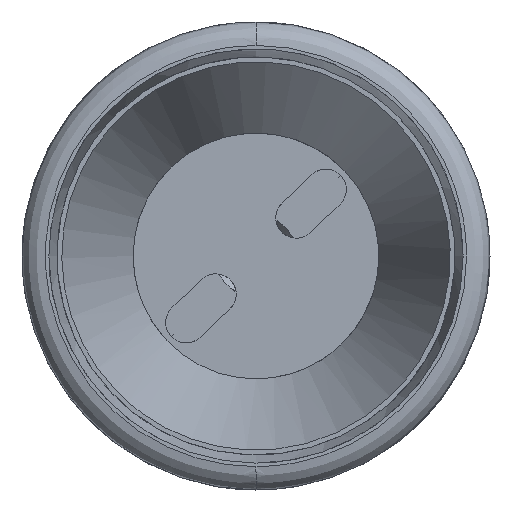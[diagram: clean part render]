
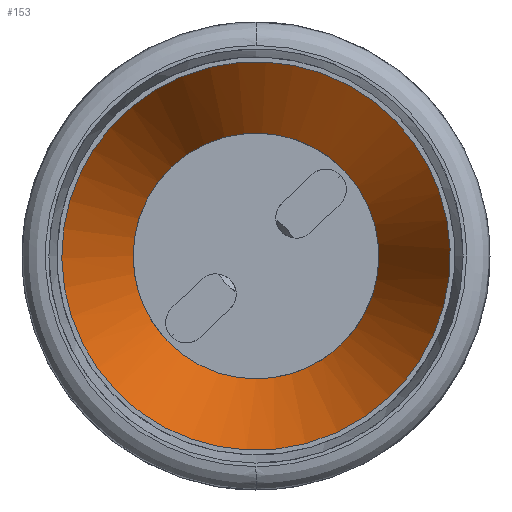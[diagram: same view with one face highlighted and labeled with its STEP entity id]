
A CAD part, front view. The second image highlights one B-rep face of the part: STEP entity #153.
In plain terms, the highlighted free-form (B-spline) face has degree [1, 2] with [2, 9] control points.
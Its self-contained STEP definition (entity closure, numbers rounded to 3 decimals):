
#43=B_SPLINE_CURVE_WITH_KNOTS('',1,(#2646,#2647),.UNSPECIFIED.,.F.,.F.,
(2,2),(26.287,41.558),.UNSPECIFIED.);
#153=ADVANCED_FACE('',(#226),#1395,.T.);
#226=FACE_OUTER_BOUND('',#303,.T.);
#303=EDGE_LOOP('',(#473,#474,#475,#476,#477,#478,#479,#480));
#473=ORIENTED_EDGE('',*,*,#879,.F.);
#474=ORIENTED_EDGE('',*,*,#878,.F.);
#475=ORIENTED_EDGE('',*,*,#885,.T.);
#476=ORIENTED_EDGE('',*,*,#884,.T.);
#477=ORIENTED_EDGE('',*,*,#877,.F.);
#478=ORIENTED_EDGE('',*,*,#879,.T.);
#479=ORIENTED_EDGE('',*,*,#880,.F.);
#480=ORIENTED_EDGE('',*,*,#876,.F.);
#876=EDGE_CURVE('',#1260,#1270,#1087,.T.);
#877=EDGE_CURVE('',#1261,#1262,#1088,.T.);
#878=EDGE_CURVE('',#1263,#1261,#1089,.T.);
#879=EDGE_CURVE('',#1261,#1260,#43,.T.);
#880=EDGE_CURVE('',#1270,#1260,#1090,.T.);
#884=EDGE_CURVE('',#1267,#1262,#1094,.T.);
#885=EDGE_CURVE('',#1263,#1267,#1095,.T.);
#1087=(
BOUNDED_CURVE()
B_SPLINE_CURVE(2,(#2631,#2632,#2633,#2634,#2635,#2636,#2637,#2638,#2639),
 .UNSPECIFIED.,.F.,.F.)
B_SPLINE_CURVE_WITH_KNOTS((3,2,2,2,3),(-104.301,-84.744,
-65.188,-45.632,-26.075),.UNSPECIFIED.)
CURVE()
GEOMETRIC_REPRESENTATION_ITEM()
RATIONAL_B_SPLINE_CURVE((1.,0.831,1.,0.831,1.,0.831,
1.,0.831,1.))
REPRESENTATION_ITEM('')
);
#1088=(
BOUNDED_CURVE()
B_SPLINE_CURVE(2,(#2640,#2641,#2642),.UNSPECIFIED.,.F.,.F.)
B_SPLINE_CURVE_WITH_KNOTS((3,3),(-16.493,0.),.UNSPECIFIED.)
CURVE()
GEOMETRIC_REPRESENTATION_ITEM()
RATIONAL_B_SPLINE_CURVE((1.,0.707,1.))
REPRESENTATION_ITEM('')
);
#1089=(
BOUNDED_CURVE()
B_SPLINE_CURVE(2,(#2643,#2644,#2645),.UNSPECIFIED.,.F.,.F.)
B_SPLINE_CURVE_WITH_KNOTS((3,3),(-32.987,-16.493),
 .UNSPECIFIED.)
CURVE()
GEOMETRIC_REPRESENTATION_ITEM()
RATIONAL_B_SPLINE_CURVE((1.,0.707,1.))
REPRESENTATION_ITEM('')
);
#1090=(
BOUNDED_CURVE()
B_SPLINE_CURVE(2,(#2648,#2649,#2650),.UNSPECIFIED.,.F.,.F.)
B_SPLINE_CURVE_WITH_KNOTS((3,3),(-26.075,0.),.UNSPECIFIED.)
CURVE()
GEOMETRIC_REPRESENTATION_ITEM()
RATIONAL_B_SPLINE_CURVE((1.,0.707,1.))
REPRESENTATION_ITEM('')
);
#1094=(
BOUNDED_CURVE()
B_SPLINE_CURVE(2,(#2662,#2663,#2664),.UNSPECIFIED.,.F.,.F.)
B_SPLINE_CURVE_WITH_KNOTS((3,3),(-16.493,0.),.UNSPECIFIED.)
CURVE()
GEOMETRIC_REPRESENTATION_ITEM()
RATIONAL_B_SPLINE_CURVE((1.,0.707,1.))
REPRESENTATION_ITEM('')
);
#1095=(
BOUNDED_CURVE()
B_SPLINE_CURVE(2,(#2665,#2666,#2667),.UNSPECIFIED.,.F.,.F.)
B_SPLINE_CURVE_WITH_KNOTS((3,3),(-32.987,-16.493),
 .UNSPECIFIED.)
CURVE()
GEOMETRIC_REPRESENTATION_ITEM()
RATIONAL_B_SPLINE_CURVE((1.,0.707,1.))
REPRESENTATION_ITEM('')
);
#1260=VERTEX_POINT('',#2576);
#1261=VERTEX_POINT('',#2577);
#1262=VERTEX_POINT('',#2578);
#1263=VERTEX_POINT('',#2579);
#1267=VERTEX_POINT('',#2583);
#1270=VERTEX_POINT('',#2586);
#1395=(
BOUNDED_SURFACE()
B_SPLINE_SURFACE(1,2,((#2254,#2255,#2256,#2257,#2258,#2259,#2260,#2261,
#2262),(#2263,#2264,#2265,#2266,#2267,#2268,#2269,#2270,#2271)),
 .UNSPECIFIED.,.F.,.F.,.F.)
B_SPLINE_SURFACE_WITH_KNOTS((2,2),(3,2,2,2,3),(0.,45.844),(0.,
1.571,3.142,4.712,6.283),
 .UNSPECIFIED.)
GEOMETRIC_REPRESENTATION_ITEM()
RATIONAL_B_SPLINE_SURFACE(((1.,0.707,1.,0.707,1.,
0.707,1.,0.707,1.),(1.,0.707,1.,0.707,
1.,0.707,1.,0.707,1.)))
REPRESENTATION_ITEM('')
SURFACE()
);
#2254=CARTESIAN_POINT('',(0.,15.448,0.));
#2255=CARTESIAN_POINT('',(0.,15.448,0.));
#2256=CARTESIAN_POINT('',(0.,15.448,0.));
#2257=CARTESIAN_POINT('',(0.,15.448,0.));
#2258=CARTESIAN_POINT('',(0.,15.448,0.));
#2259=CARTESIAN_POINT('',(0.,15.448,0.));
#2260=CARTESIAN_POINT('',(0.,15.448,0.));
#2261=CARTESIAN_POINT('',(0.,15.448,0.));
#2262=CARTESIAN_POINT('',(0.,15.448,0.));
#2263=CARTESIAN_POINT('',(-13.268,-26.58,-12.622));
#2264=CARTESIAN_POINT('',(-0.646,-26.58,-25.889));
#2265=CARTESIAN_POINT('',(12.622,-26.58,-13.268));
#2266=CARTESIAN_POINT('',(25.889,-26.58,-0.646));
#2267=CARTESIAN_POINT('',(13.268,-26.58,12.622));
#2268=CARTESIAN_POINT('',(0.646,-26.58,25.889));
#2269=CARTESIAN_POINT('',(-12.622,-26.58,13.268));
#2270=CARTESIAN_POINT('',(-25.889,-26.58,0.646));
#2271=CARTESIAN_POINT('',(-13.268,-26.58,-12.622));
#2576=CARTESIAN_POINT('',(-12.027,-22.65,-11.441));
#2577=CARTESIAN_POINT('',(-7.608,-8.65,-7.237));
#2578=CARTESIAN_POINT('',(7.237,-8.65,-7.608));
#2579=CARTESIAN_POINT('',(-7.237,-8.65,7.608));
#2583=CARTESIAN_POINT('',(7.608,-8.65,7.237));
#2586=CARTESIAN_POINT('',(11.441,-22.65,-12.027));
#2631=CARTESIAN_POINT('',(-12.027,-22.65,-11.441));
#2632=CARTESIAN_POINT('',(-19.672,-22.65,-3.405));
#2633=CARTESIAN_POINT('',(-15.173,-22.65,6.733));
#2634=CARTESIAN_POINT('',(-10.674,-22.65,16.872));
#2635=CARTESIAN_POINT('',(0.414,-22.65,16.595));
#2636=CARTESIAN_POINT('',(11.503,-22.65,16.318));
#2637=CARTESIAN_POINT('',(15.49,-22.65,5.968));
#2638=CARTESIAN_POINT('',(19.478,-22.65,-4.382));
#2639=CARTESIAN_POINT('',(11.441,-22.65,-12.027));
#2640=CARTESIAN_POINT('',(-7.608,-8.65,-7.237));
#2641=CARTESIAN_POINT('',(-0.371,-8.65,-14.845));
#2642=CARTESIAN_POINT('',(7.237,-8.65,-7.608));
#2643=CARTESIAN_POINT('',(-7.237,-8.65,7.608));
#2644=CARTESIAN_POINT('',(-14.845,-8.65,0.371));
#2645=CARTESIAN_POINT('',(-7.608,-8.65,-7.237));
#2646=CARTESIAN_POINT('',(-7.608,-8.65,-7.237));
#2647=CARTESIAN_POINT('',(-12.027,-22.65,-11.441));
#2648=CARTESIAN_POINT('',(11.441,-22.65,-12.027));
#2649=CARTESIAN_POINT('',(-0.586,-22.65,-23.469));
#2650=CARTESIAN_POINT('',(-12.027,-22.65,-11.441));
#2662=CARTESIAN_POINT('',(7.608,-8.65,7.237));
#2663=CARTESIAN_POINT('',(14.845,-8.65,-0.371));
#2664=CARTESIAN_POINT('',(7.237,-8.65,-7.608));
#2665=CARTESIAN_POINT('',(-7.237,-8.65,7.608));
#2666=CARTESIAN_POINT('',(0.371,-8.65,14.845));
#2667=CARTESIAN_POINT('',(7.608,-8.65,7.237));
